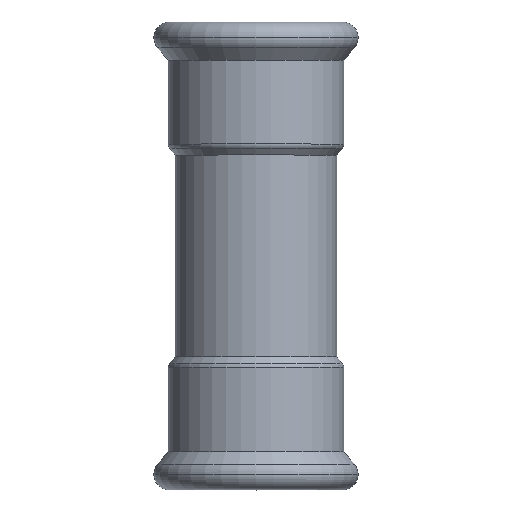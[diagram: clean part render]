
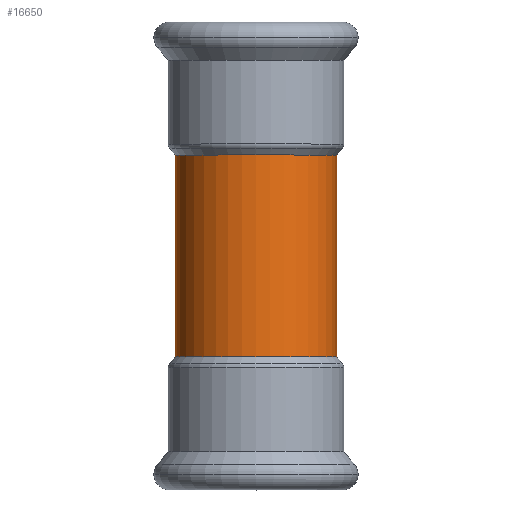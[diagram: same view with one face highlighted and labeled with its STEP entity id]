
A CAD part, top view. The second image highlights one B-rep face of the part: STEP entity #16650.
In plain terms, the highlighted cylindrical face has radius 17.594 mm (diameter 35.189 mm), a partial arc.
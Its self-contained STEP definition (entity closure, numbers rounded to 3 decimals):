
#250=CARTESIAN_POINT('',(-96.193,7.409,
-22.));
#260=DIRECTION('',(0.,0.,-1.));
#270=DIRECTION('',(-1.,0.,0.));
#280=AXIS2_PLACEMENT_3D('',#250,#260,#270);
#290=CYLINDRICAL_SURFACE('',#280,17.594);
#2900=CARTESIAN_POINT('',(-113.787,7.409,
22.));
#2910=VERTEX_POINT('',#2900);
#3090=CARTESIAN_POINT('',(-78.598,7.409,
22.));
#3100=VERTEX_POINT('',#3090);
#3130=CARTESIAN_POINT('',(-96.193,7.409,
22.));
#3140=DIRECTION('',(0.,0.,1.));
#3150=DIRECTION('',(1.,0.,0.));
#3160=AXIS2_PLACEMENT_3D('',#3130,#3140,#3150);
#3170=CIRCLE('',#3160,17.594);
#3180=EDGE_CURVE('',#2910,#3100,#3170,.T.);
#15330=CARTESIAN_POINT('',(-78.598,7.409,
-22.));
#15340=VERTEX_POINT('',#15330);
#15430=CARTESIAN_POINT('',(-113.787,7.409,
-22.));
#15440=VERTEX_POINT('',#15430);
#15470=CARTESIAN_POINT('',(-96.193,7.409,
-22.));
#15480=DIRECTION('',(0.,0.,-1.));
#15490=DIRECTION('',(-1.,0.,0.));
#15500=AXIS2_PLACEMENT_3D('',#15470,#15480,#15490);
#15510=CIRCLE('',#15500,17.594);
#15520=EDGE_CURVE('',#15340,#15440,#15510,.T.);
#16490=CARTESIAN_POINT('',(-78.598,7.409,
-22.));
#16500=DIRECTION('',(0.,0.,-1.));
#16510=VECTOR('',#16500,1.);
#16520=LINE('',#16490,#16510);
#16530=EDGE_CURVE('',#3100,#15340,#16520,.T.);
#16540=ORIENTED_EDGE('',*,*,#16530,.F.);
#16550=ORIENTED_EDGE('',*,*,#15520,.F.);
#16560=CARTESIAN_POINT('',(-113.787,7.409,
-22.));
#16570=DIRECTION('',(0.,0.,-1.));
#16580=VECTOR('',#16570,1.);
#16590=LINE('',#16560,#16580);
#16600=EDGE_CURVE('',#2910,#15440,#16590,.T.);
#16610=ORIENTED_EDGE('',*,*,#16600,.T.);
#16620=ORIENTED_EDGE('',*,*,#3180,.F.);
#16630=EDGE_LOOP('',(#16620,#16610,#16550,#16540));
#16640=FACE_OUTER_BOUND('',#16630,.T.);
#16650=ADVANCED_FACE('',(#16640),#290,.T.);
